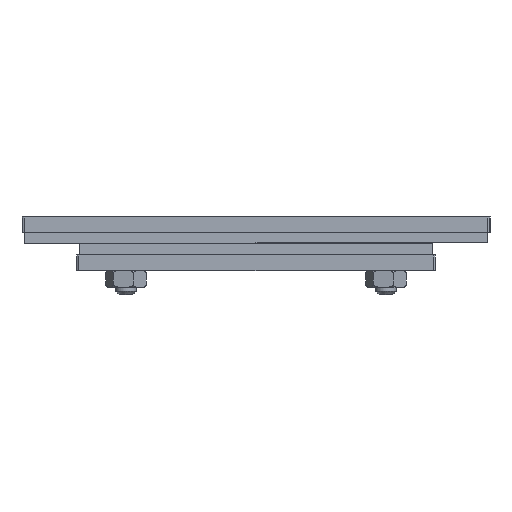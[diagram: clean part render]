
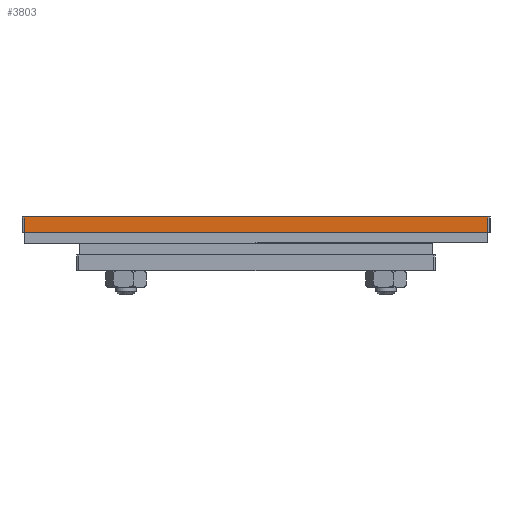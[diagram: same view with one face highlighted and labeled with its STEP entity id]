
A CAD part, left-side view. The second image highlights one B-rep face of the part: STEP entity #3803.
In plain terms, the highlighted planar face has unit normal (-1, 0, 0).
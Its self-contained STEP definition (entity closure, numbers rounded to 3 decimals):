
#124=LINE('',#6456,#186);
#127=LINE('',#6535,#189);
#129=LINE('',#6576,#191);
#130=LINE('',#6577,#192);
#186=VECTOR('',#5365,1000.);
#189=VECTOR('',#5442,1000.);
#191=VECTOR('',#5500,1000.);
#192=VECTOR('',#5501,1000.);
#892=ORIENTED_EDGE('',*,*,#1399,.F.);
#893=ORIENTED_EDGE('',*,*,#1450,.T.);
#894=ORIENTED_EDGE('',*,*,#1438,.F.);
#895=ORIENTED_EDGE('',*,*,#1451,.T.);
#1399=EDGE_CURVE('',#1786,#1787,#124,.T.);
#1438=EDGE_CURVE('',#1825,#1826,#127,.T.);
#1450=EDGE_CURVE('',#1786,#1826,#129,.F.);
#1451=EDGE_CURVE('',#1825,#1787,#130,.T.);
#1786=VERTEX_POINT('',#6455);
#1787=VERTEX_POINT('',#6457);
#1825=VERTEX_POINT('',#6534);
#1826=VERTEX_POINT('',#6536);
#2713=EDGE_LOOP('',(#892,#893,#894,#895));
#3363=FACE_BOUND('',#2713,.T.);
#3615=PLANE('',#4466);
#3803=ADVANCED_FACE('',(#3363),#3615,.T.);
#4466=AXIS2_PLACEMENT_3D('',#6575,#5498,#5499);
#5365=DIRECTION('',(0.,-1.,0.));
#5442=DIRECTION('',(0.,1.,0.));
#5498=DIRECTION('',(-1.,0.,0.));
#5499=DIRECTION('',(0.,1.,0.));
#5500=DIRECTION('',(0.,0.,1.));
#5501=DIRECTION('',(0.,0.,1.));
#6455=CARTESIAN_POINT('',(-72.,44.6,3.));
#6456=CARTESIAN_POINT('',(-72.,-47.25,3.));
#6457=CARTESIAN_POINT('',(-72.,-44.6,3.));
#6534=CARTESIAN_POINT('',(-72.,-44.6,0.));
#6535=CARTESIAN_POINT('',(-72.,-44.6,0.));
#6536=CARTESIAN_POINT('',(-72.,44.6,0.));
#6575=CARTESIAN_POINT('',(-72.,-45.,3.));
#6576=CARTESIAN_POINT('',(-72.,44.6,3.));
#6577=CARTESIAN_POINT('',(-72.,-44.6,3.));
